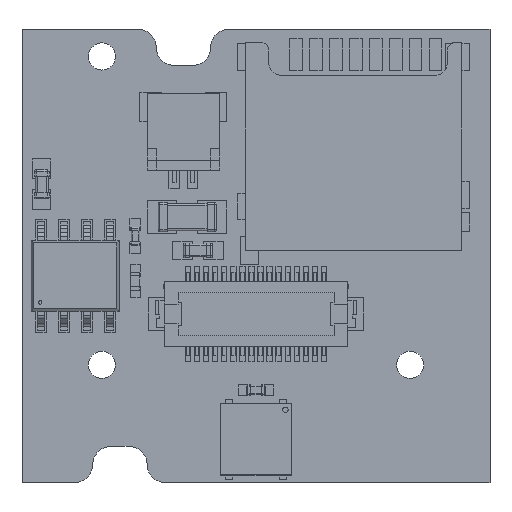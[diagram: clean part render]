
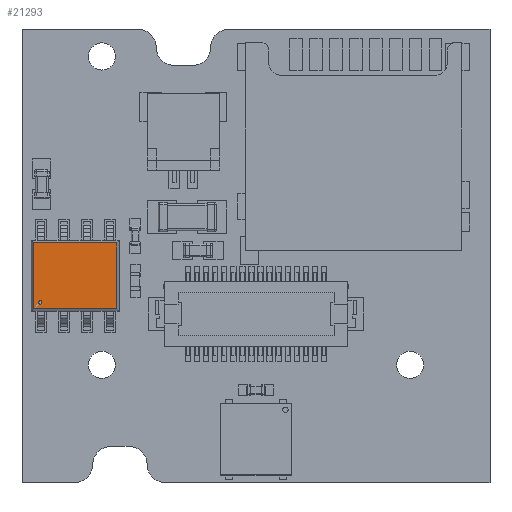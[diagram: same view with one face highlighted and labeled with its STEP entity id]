
A CAD part, top view. The second image highlights one B-rep face of the part: STEP entity #21293.
In plain terms, the highlighted planar face has unit normal (0, 0, 1).
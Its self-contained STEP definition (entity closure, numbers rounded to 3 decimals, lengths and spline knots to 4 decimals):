
#19058 = PLANE('',#19059);
#19059 = AXIS2_PLACEMENT_3D('',#19060,#19061,#19062);
#19060 = CARTESIAN_POINT('',(12.615,14.584,2.2));
#19061 = DIRECTION('',(0.,-0.966,0.259
    ));
#19062 = DIRECTION('',(0.,0.259,0.966)
  );
#19939 = VERTEX_POINT('',#19940);
#19940 = CARTESIAN_POINT('',(12.749,14.584,2.2));
#19954 = PLANE('',#19955);
#19955 = AXIS2_PLACEMENT_3D('',#19956,#19957,#19958);
#19956 = CARTESIAN_POINT('',(12.615,14.45,1.7));
#19957 = DIRECTION('',(0.966,0.,-0.259
    ));
#19958 = DIRECTION('',(0.259,0.,0.966
    ));
#19966 = EDGE_CURVE('',#19939,#19967,#19969,.T.);
#19967 = VERTEX_POINT('',#19968);
#19968 = CARTESIAN_POINT('',(17.331,14.584,2.2));
#19969 = SURFACE_CURVE('',#19970,(#19974,#19981),.PCURVE_S1.);
#19970 = LINE('',#19971,#19972);
#19971 = CARTESIAN_POINT('',(12.615,14.584,2.2));
#19972 = VECTOR('',#19973,1.);
#19973 = DIRECTION('',(1.,0.,0.));
#19974 = PCURVE('',#19058,#19975);
#19975 = DEFINITIONAL_REPRESENTATION('',(#19976),#19980);
#19976 = LINE('',#19977,#19978);
#19977 = CARTESIAN_POINT('',(0.,0.));
#19978 = VECTOR('',#19979,1.);
#19979 = DIRECTION('',(0.,-1.));
#19980 = ( GEOMETRIC_REPRESENTATION_CONTEXT(2) 
PARAMETRIC_REPRESENTATION_CONTEXT() REPRESENTATION_CONTEXT('2D SPACE',''
  ) );
#19981 = PCURVE('',#19982,#19987);
#19982 = PLANE('',#19983);
#19983 = AXIS2_PLACEMENT_3D('',#19984,#19985,#19986);
#19984 = CARTESIAN_POINT('',(17.465,18.35,2.2));
#19985 = DIRECTION('',(0.,0.,1.));
#19986 = DIRECTION('',(0.,-1.,0.));
#19987 = DEFINITIONAL_REPRESENTATION('',(#19988),#19992);
#19988 = LINE('',#19989,#19990);
#19989 = CARTESIAN_POINT('',(3.766,-4.85));
#19990 = VECTOR('',#19991,1.);
#19991 = DIRECTION('',(0.,1.));
#19992 = ( GEOMETRIC_REPRESENTATION_CONTEXT(2) 
PARAMETRIC_REPRESENTATION_CONTEXT() REPRESENTATION_CONTEXT('2D SPACE',''
  ) );
#20010 = PLANE('',#20011);
#20011 = AXIS2_PLACEMENT_3D('',#20012,#20013,#20014);
#20012 = CARTESIAN_POINT('',(17.465,14.45,1.7));
#20013 = DIRECTION('',(-0.966,0.,
    -0.259));
#20014 = DIRECTION('',(0.259,0.,-0.966
    ));
#21246 = VERTEX_POINT('',#21247);
#21247 = CARTESIAN_POINT('',(17.331,18.216,2.2));
#21261 = PLANE('',#21262);
#21262 = AXIS2_PLACEMENT_3D('',#21263,#21264,#21265);
#21263 = CARTESIAN_POINT('',(12.615,18.216,2.2));
#21264 = DIRECTION('',(0.,0.966,0.259)
  );
#21265 = DIRECTION('',(0.,0.259,
    -0.966));
#21273 = EDGE_CURVE('',#19967,#21246,#21274,.T.);
#21274 = SURFACE_CURVE('',#21275,(#21279,#21286),.PCURVE_S1.);
#21275 = LINE('',#21276,#21277);
#21276 = CARTESIAN_POINT('',(17.331,14.45,2.2));
#21277 = VECTOR('',#21278,1.);
#21278 = DIRECTION('',(0.,1.,0.));
#21279 = PCURVE('',#20010,#21280);
#21280 = DEFINITIONAL_REPRESENTATION('',(#21281),#21285);
#21281 = LINE('',#21282,#21283);
#21282 = CARTESIAN_POINT('',(-0.518,0.));
#21283 = VECTOR('',#21284,1.);
#21284 = DIRECTION('',(0.,-1.));
#21285 = ( GEOMETRIC_REPRESENTATION_CONTEXT(2) 
PARAMETRIC_REPRESENTATION_CONTEXT() REPRESENTATION_CONTEXT('2D SPACE',''
  ) );
#21286 = PCURVE('',#19982,#21287);
#21287 = DEFINITIONAL_REPRESENTATION('',(#21288),#21292);
#21288 = LINE('',#21289,#21290);
#21289 = CARTESIAN_POINT('',(3.9,-0.134));
#21290 = VECTOR('',#21291,1.);
#21291 = DIRECTION('',(-1.,0.));
#21292 = ( GEOMETRIC_REPRESENTATION_CONTEXT(2) 
PARAMETRIC_REPRESENTATION_CONTEXT() REPRESENTATION_CONTEXT('2D SPACE',''
  ) );
#21293 = ADVANCED_FACE('',(#21294,#21342),#19982,.T.);
#21294 = FACE_BOUND('',#21295,.T.);
#21295 = EDGE_LOOP('',(#21296,#21297,#21320,#21341));
#21296 = ORIENTED_EDGE('',*,*,#21273,.T.);
#21297 = ORIENTED_EDGE('',*,*,#21298,.F.);
#21298 = EDGE_CURVE('',#21299,#21246,#21301,.T.);
#21299 = VERTEX_POINT('',#21300);
#21300 = CARTESIAN_POINT('',(12.749,18.216,2.2));
#21301 = SURFACE_CURVE('',#21302,(#21306,#21313),.PCURVE_S1.);
#21302 = LINE('',#21303,#21304);
#21303 = CARTESIAN_POINT('',(12.615,18.216,2.2));
#21304 = VECTOR('',#21305,1.);
#21305 = DIRECTION('',(1.,0.,0.));
#21306 = PCURVE('',#19982,#21307);
#21307 = DEFINITIONAL_REPRESENTATION('',(#21308),#21312);
#21308 = LINE('',#21309,#21310);
#21309 = CARTESIAN_POINT('',(0.134,-4.85));
#21310 = VECTOR('',#21311,1.);
#21311 = DIRECTION('',(0.,1.));
#21312 = ( GEOMETRIC_REPRESENTATION_CONTEXT(2) 
PARAMETRIC_REPRESENTATION_CONTEXT() REPRESENTATION_CONTEXT('2D SPACE',''
  ) );
#21313 = PCURVE('',#21261,#21314);
#21314 = DEFINITIONAL_REPRESENTATION('',(#21315),#21319);
#21315 = LINE('',#21316,#21317);
#21316 = CARTESIAN_POINT('',(0.,0.));
#21317 = VECTOR('',#21318,1.);
#21318 = DIRECTION('',(0.,-1.));
#21319 = ( GEOMETRIC_REPRESENTATION_CONTEXT(2) 
PARAMETRIC_REPRESENTATION_CONTEXT() REPRESENTATION_CONTEXT('2D SPACE',''
  ) );
#21320 = ORIENTED_EDGE('',*,*,#21321,.F.);
#21321 = EDGE_CURVE('',#19939,#21299,#21322,.T.);
#21322 = SURFACE_CURVE('',#21323,(#21327,#21334),.PCURVE_S1.);
#21323 = LINE('',#21324,#21325);
#21324 = CARTESIAN_POINT('',(12.749,14.45,2.2));
#21325 = VECTOR('',#21326,1.);
#21326 = DIRECTION('',(0.,1.,0.));
#21327 = PCURVE('',#19982,#21328);
#21328 = DEFINITIONAL_REPRESENTATION('',(#21329),#21333);
#21329 = LINE('',#21330,#21331);
#21330 = CARTESIAN_POINT('',(3.9,-4.716));
#21331 = VECTOR('',#21332,1.);
#21332 = DIRECTION('',(-1.,0.));
#21333 = ( GEOMETRIC_REPRESENTATION_CONTEXT(2) 
PARAMETRIC_REPRESENTATION_CONTEXT() REPRESENTATION_CONTEXT('2D SPACE',''
  ) );
#21334 = PCURVE('',#19954,#21335);
#21335 = DEFINITIONAL_REPRESENTATION('',(#21336),#21340);
#21336 = LINE('',#21337,#21338);
#21337 = CARTESIAN_POINT('',(0.518,0.));
#21338 = VECTOR('',#21339,1.);
#21339 = DIRECTION('',(0.,-1.));
#21340 = ( GEOMETRIC_REPRESENTATION_CONTEXT(2) 
PARAMETRIC_REPRESENTATION_CONTEXT() REPRESENTATION_CONTEXT('2D SPACE',''
  ) );
#21341 = ORIENTED_EDGE('',*,*,#19966,.T.);
#21342 = FACE_BOUND('',#21343,.T.);
#21343 = EDGE_LOOP('',(#21344));
#21344 = ORIENTED_EDGE('',*,*,#21345,.F.);
#21345 = EDGE_CURVE('',#21346,#21346,#21348,.T.);
#21346 = VERTEX_POINT('',#21347);
#21347 = CARTESIAN_POINT('',(13.1025,15.0375,2.2));
#21348 = SURFACE_CURVE('',#21349,(#21354,#21361),.PCURVE_S1.);
#21349 = CIRCLE('',#21350,0.1);
#21350 = AXIS2_PLACEMENT_3D('',#21351,#21352,#21353);
#21351 = CARTESIAN_POINT('',(13.1025,14.9375,2.2));
#21352 = DIRECTION('',(0.,0.,1.));
#21353 = DIRECTION('',(0.,1.,0.));
#21354 = PCURVE('',#19982,#21355);
#21355 = DEFINITIONAL_REPRESENTATION('',(#21356),#21360);
#21356 = CIRCLE('',#21357,0.1);
#21357 = AXIS2_PLACEMENT_2D('',#21358,#21359);
#21358 = CARTESIAN_POINT('',(3.412,-4.362));
#21359 = DIRECTION('',(-1.,0.));
#21360 = ( GEOMETRIC_REPRESENTATION_CONTEXT(2) 
PARAMETRIC_REPRESENTATION_CONTEXT() REPRESENTATION_CONTEXT('2D SPACE',''
  ) );
#21361 = PCURVE('',#21362,#21367);
#21362 = PLANE('',#21363);
#21363 = AXIS2_PLACEMENT_3D('',#21364,#21365,#21366);
#21364 = CARTESIAN_POINT('',(17.465,18.35,2.2));
#21365 = DIRECTION('',(0.,0.,1.));
#21366 = DIRECTION('',(0.,-1.,0.));
#21367 = DEFINITIONAL_REPRESENTATION('',(#21368),#21372);
#21368 = CIRCLE('',#21369,0.1);
#21369 = AXIS2_PLACEMENT_2D('',#21370,#21371);
#21370 = CARTESIAN_POINT('',(3.412,-4.362));
#21371 = DIRECTION('',(-1.,0.));
#21372 = ( GEOMETRIC_REPRESENTATION_CONTEXT(2) 
PARAMETRIC_REPRESENTATION_CONTEXT() REPRESENTATION_CONTEXT('2D SPACE',''
  ) );
